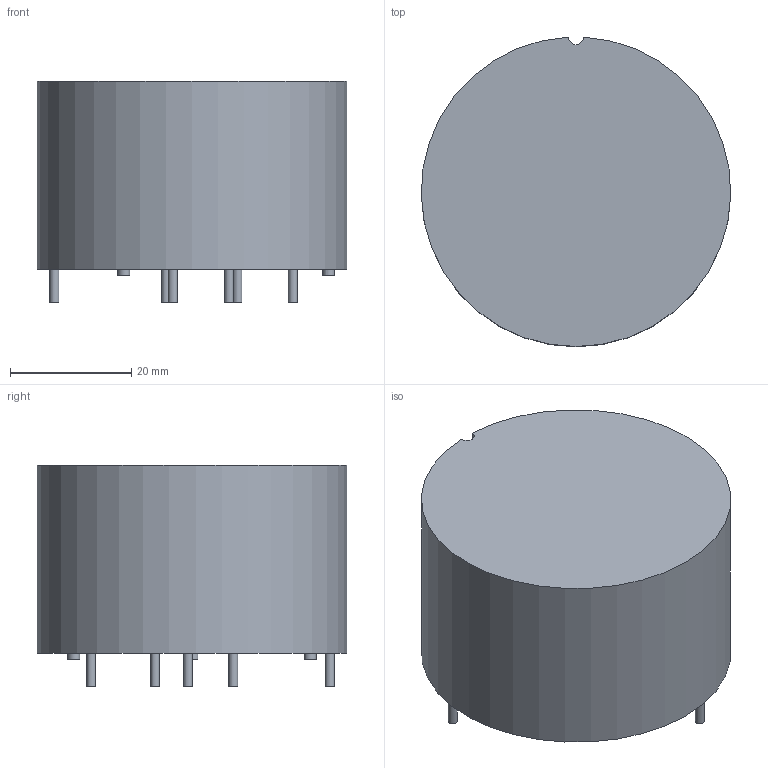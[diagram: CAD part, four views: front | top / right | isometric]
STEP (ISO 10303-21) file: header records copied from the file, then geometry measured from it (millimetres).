
FILE_DESCRIPTION(/* description */ (''),/* implementation_level */ '2;1');
FILE_NAME(/* name */ 'F:\2016年工作\2016年产品图纸\VAC\X2\4EA754C1\X0\3D模型\产品3D模型\6123-X312\6123-X312 3D model.stp',/* time_stamp */ '2016-06-21T09:29:57+08:00',/* author */ ('CN000560'),/* organization */ (''),/* preprocessor_version */ 'ST-DEVELOPER v16.1',/* originating_system */ 'Autodesk Inventor 2016',/* authorisation */ '');
FILE_SCHEMA (('AUTOMOTIVE_DESIGN { 1 0 10303 214 3 1 1 }'));
Length unit declared in the file: millimetre
Products named in the file (1): 6123-X312 3D model
Bounding box: 50.98 x 50.97 x 36.5 mm (x, y, z)
Volume: 63319.9 mm3; surface area: 9264.3 mm2
Topology: 1 solids, 1 shells, 22 faces, 33 edges, 22 vertices
Faces by surface type: cylinder 11, plane 11
Full cylindrical faces by diameter (mm): 1.5 x6, 2 x3
Entity records: 478 total; most frequent: DIRECTION 92, CARTESIAN_POINT 69, ORIENTED_EDGE 48, AXIS2_PLACEMENT_3D 45, EDGE_LOOP 40, EDGE_CURVE 24, FACE_OUTER_BOUND 22, CIRCLE 22
